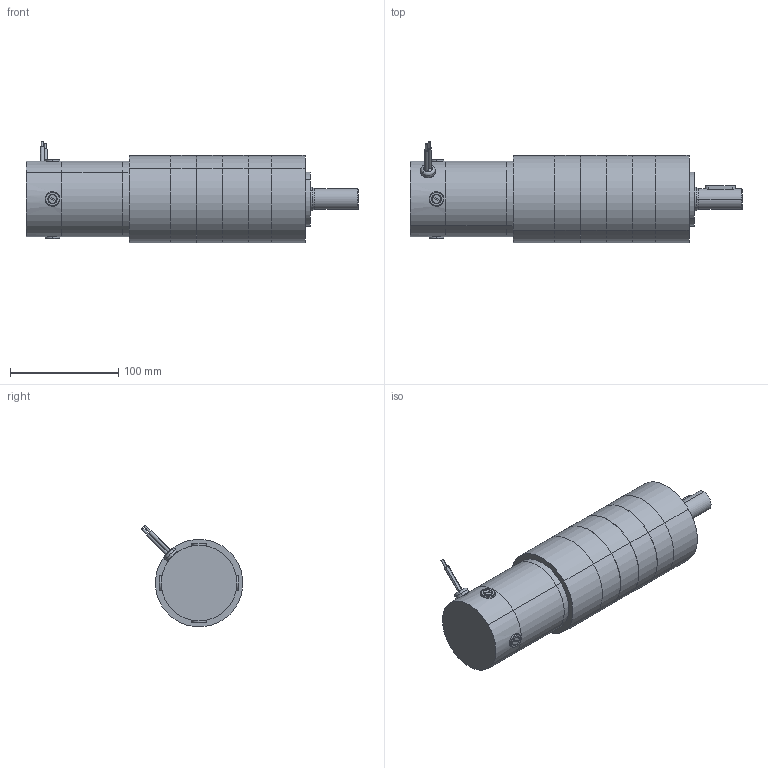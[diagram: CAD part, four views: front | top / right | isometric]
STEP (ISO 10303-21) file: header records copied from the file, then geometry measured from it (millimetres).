
FILE_DESCRIPTION (( 'STEP AP203' ), '1' );
FILE_NAME ('s27411bgp4.step', '2018-12-07T20:01:52', ( '' ), ( '' ), 'SwSTEP 2.0', 'SolidWorks 2017', '' );
FILE_SCHEMA (( 'CONFIG_CONTROL_DESIGN' ));
Length unit declared in the file: inch
Products named in the file (1): s27411bgp4
Bounding box: 306.95 x 93.8 x 93.8 mm (x, y, z)
Volume: 1239704.7 mm3; surface area: 156574.9 mm2
Topology: 19 solids, 19 shells, 374 faces, 788 edges, 488 vertices
Faces by surface type: cylinder 157, plane 150, cone 57, torus 6, sphere 4
Entity records: 10465 total; most frequent: CARTESIAN_POINT 2176, DIRECTION 1861, ORIENTED_EDGE 1544, EDGE_CURVE 772, AXIS2_PLACEMENT_3D 744, VERTEX_POINT 488, EDGE_LOOP 442, FACE_OUTER_BOUND 374
